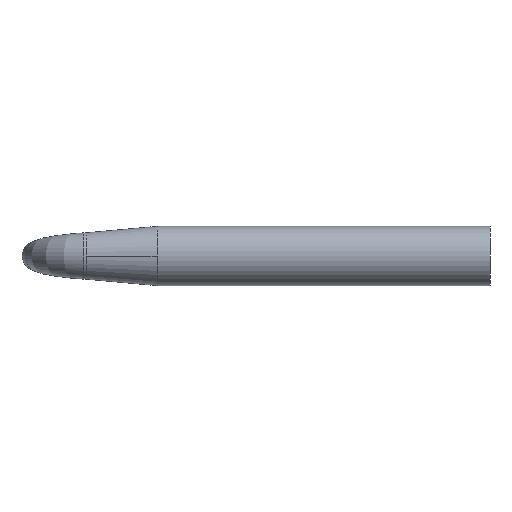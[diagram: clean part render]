
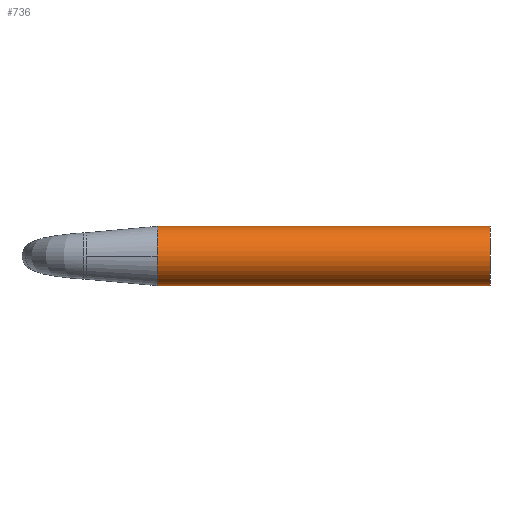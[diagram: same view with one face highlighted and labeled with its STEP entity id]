
A CAD part, front view. The second image highlights one B-rep face of the part: STEP entity #736.
In plain terms, the highlighted cylindrical face has radius 16 mm (diameter 32 mm), a partial arc.
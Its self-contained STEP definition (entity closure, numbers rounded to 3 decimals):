
#736=ADVANCED_FACE('',(#904),#903,.T.);
#903=CYLINDRICAL_SURFACE('',#1264,16.);
#904=FACE_OUTER_BOUND('',#1265,.T.);
#1261=CARTESIAN_POINT('',(322.984,182.717,0.));
#1262=DIRECTION('',(-1.,0.,0.));
#1263=DIRECTION('',(0.,0.,1.));
#1264=AXIS2_PLACEMENT_3D('',#1261,#1262,#1263);
#1265=EDGE_LOOP('',(#2480,#2481,#2482,#2483,#2484));
#2480=ORIENTED_EDGE('',*,*,#2609,.T.);
#2481=ORIENTED_EDGE('',*,*,#2649,.T.);
#2482=ORIENTED_EDGE('',*,*,#2651,.T.);
#2483=ORIENTED_EDGE('',*,*,#2652,.T.);
#2484=ORIENTED_EDGE('',*,*,#2650,.F.);
#2609=EDGE_CURVE('',#2744,#2745,#2746,.T.);
#2649=EDGE_CURVE('',#2745,#3009,#3016,.T.);
#2650=EDGE_CURVE('',#2744,#3001,#3022,.T.);
#2651=EDGE_CURVE('',#3009,#3028,#3029,.T.);
#2652=EDGE_CURVE('',#3028,#3001,#3035,.T.);
#2744=VERTEX_POINT('',#3376);
#2745=VERTEX_POINT('',#3377);
#2746=CIRCLE('',#3381,16.);
#3001=VERTEX_POINT('',#3551);
#3009=VERTEX_POINT('',#3557);
#3016=(BOUNDED_CURVE() B_SPLINE_CURVE(1,(#3562,#3563),.UNSPECIFIED.,.F.,.F.) B_SPLINE_CURVE_WITH_KNOTS((2,2),(0.05,0.95),.UNSPECIFIED.) CURVE() GEOMETRIC_REPRESENTATION_ITEM() RATIONAL_B_SPLINE_CURVE((1.,1.)) REPRESENTATION_ITEM('') );
#3022=(BOUNDED_CURVE() B_SPLINE_CURVE(1,(#3564,#3565),.UNSPECIFIED.,.F.,.F.) B_SPLINE_CURVE_WITH_KNOTS((2,2),(0.05,0.95),.UNSPECIFIED.) CURVE() GEOMETRIC_REPRESENTATION_ITEM() RATIONAL_B_SPLINE_CURVE((0.75,0.75)) REPRESENTATION_ITEM('') );
#3028=VERTEX_POINT('',#3566);
#3029=CIRCLE('',#3570,16.);
#3035=CIRCLE('',#3574,16.);
#3376=CARTESIAN_POINT('',(502.984,182.717,-16.));
#3377=CARTESIAN_POINT('',(502.984,182.717,16.));
#3378=CARTESIAN_POINT('',(502.984,182.717,0.));
#3379=DIRECTION('',(-1.,0.,0.));
#3380=DIRECTION('',(0.,0.,1.));
#3381=AXIS2_PLACEMENT_3D('',#3378,#3379,#3380);
#3551=CARTESIAN_POINT('',(322.984,182.717,-16.));
#3557=CARTESIAN_POINT('',(322.984,182.717,16.));
#3562=CARTESIAN_POINT('',(502.984,182.717,16.));
#3563=CARTESIAN_POINT('',(322.984,182.717,16.));
#3564=CARTESIAN_POINT('',(502.984,182.717,-16.));
#3565=CARTESIAN_POINT('',(322.984,182.717,-16.));
#3566=CARTESIAN_POINT('',(322.984,166.717,0.));
#3567=CARTESIAN_POINT('',(322.984,182.717,0.));
#3568=DIRECTION('',(1.,0.,0.));
#3569=DIRECTION('',(0.,-1.,0.));
#3570=AXIS2_PLACEMENT_3D('',#3567,#3568,#3569);
#3571=CARTESIAN_POINT('',(322.984,182.717,0.));
#3572=DIRECTION('',(1.,0.,0.));
#3573=DIRECTION('',(0.,-1.,0.));
#3574=AXIS2_PLACEMENT_3D('',#3571,#3572,#3573);
